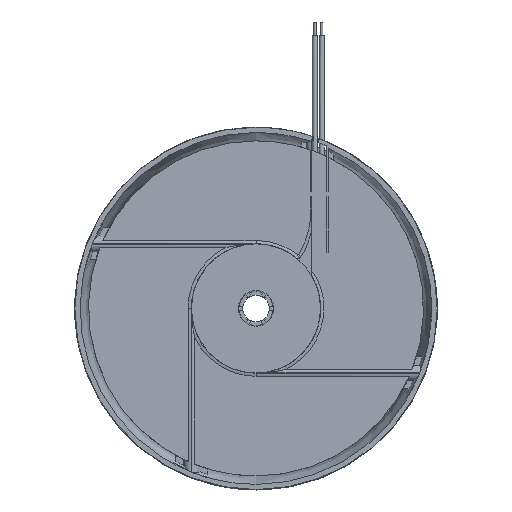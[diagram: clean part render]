
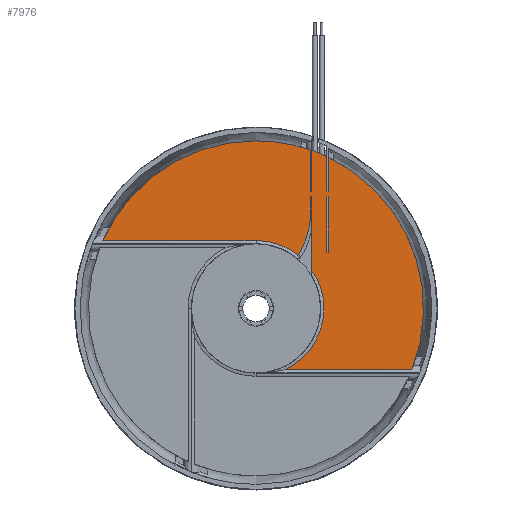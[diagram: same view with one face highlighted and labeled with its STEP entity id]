
A CAD part, top view. The second image highlights one B-rep face of the part: STEP entity #7976.
In plain terms, the highlighted planar face has unit normal (0, 0, 1).
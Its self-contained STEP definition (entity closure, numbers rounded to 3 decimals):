
#118=DIRECTION('',(0.,1.,0.));
#119=VECTOR('',#118,15.471);
#120=CARTESIAN_POINT('',(20.724,44.,-0.5));
#121=LINE('',#120,#119);
#134=DIRECTION('',(0.,1.,0.));
#135=VECTOR('',#134,27.65);
#136=CARTESIAN_POINT('',(20.724,14.35,-0.5));
#137=LINE('',#136,#135);
#688=DIRECTION('',(-1.,0.,0.));
#689=VECTOR('',#688,0.7);
#690=CARTESIAN_POINT('',(27.217,44.,-0.5));
#691=LINE('',#690,#689);
#700=CARTESIAN_POINT('',(0.,0.,-0.5));
#701=DIRECTION('',(0.,0.,-1.));
#702=DIRECTION('',(-0.914,0.405,0.));
#703=AXIS2_PLACEMENT_3D('',#700,#701,#702);
#705=CARTESIAN_POINT('',(0.,0.,-0.5));
#706=DIRECTION('',(0.,0.,-1.));
#707=DIRECTION('',(0.,1.,0.));
#708=AXIS2_PLACEMENT_3D('',#705,#706,#707);
#710=CARTESIAN_POINT('',(0.,0.,-0.5));
#711=DIRECTION('',(0.,0.,-1.));
#712=DIRECTION('',(0.329,0.944,0.));
#713=AXIS2_PLACEMENT_3D('',#710,#711,#712);
#715=CARTESIAN_POINT('',(0.,0.,-0.5));
#716=DIRECTION('',(0.,0.,-1.));
#717=DIRECTION('',(0.432,0.902,0.));
#718=AXIS2_PLACEMENT_3D('',#715,#716,#717);
#735=DIRECTION('',(1.,0.,0.));
#736=VECTOR('',#735,0.184);
#737=CARTESIAN_POINT('',(20.539,42.,-0.5));
#738=LINE('',#737,#736);
#748=CARTESIAN_POINT('',(20.539,59.534,-0.5));
#762=DIRECTION('',(0.,-1.,0.));
#763=VECTOR('',#762,15.534);
#764=CARTESIAN_POINT('',(20.539,59.534,-0.5));
#765=LINE('',#764,#763);
#766=DIRECTION('',(0.,-1.,0.));
#767=VECTOR('',#766,5.409);
#768=CARTESIAN_POINT('',(20.539,42.,-0.5));
#769=LINE('',#768,#767);
#809=DIRECTION('',(0.,1.,0.));
#810=VECTOR('',#809,12.793);
#811=CARTESIAN_POINT('',(27.217,44.,-0.5));
#812=LINE('',#811,#810);
#828=DIRECTION('',(0.,1.,0.));
#829=VECTOR('',#828,20.874);
#830=CARTESIAN_POINT('',(27.217,21.126,-0.5));
#831=LINE('',#830,#829);
#1158=CARTESIAN_POINT('',(-57.572,25.528,-0.5));
#1160=DIRECTION('',(-1.,0.,0.));
#1161=VECTOR('',#1160,57.572);
#1162=CARTESIAN_POINT('',(0.,25.528,-0.5));
#1163=LINE('',#1162,#1161);
#1181=CARTESIAN_POINT('',(0.,0.,-0.5));
#1182=DIRECTION('',(0.,0.,1.));
#1183=DIRECTION('',(0.609,0.793,0.));
#1184=AXIS2_PLACEMENT_3D('',#1181,#1182,#1183);
#1198=CARTESIAN_POINT('',(15.551,20.245,
-0.5));
#1199=CARTESIAN_POINT('',(15.595,20.211,
-0.5));
#1200=CARTESIAN_POINT('',(15.68,20.156,
-0.5));
#1201=CARTESIAN_POINT('',(15.818,20.115,
-0.5));
#1202=CARTESIAN_POINT('',(15.951,20.142,
-0.5));
#1203=CARTESIAN_POINT('',(16.063,20.233,
-0.5));
#1204=CARTESIAN_POINT('',(16.12,20.315,
-0.5));
#1205=CARTESIAN_POINT('',(16.148,20.361,
-0.5));
#1207=CARTESIAN_POINT('',(16.148,20.361,
-0.5));
#1208=CARTESIAN_POINT('',(16.35,20.705,
-0.5));
#1209=CARTESIAN_POINT('',(16.88,21.642,
-0.5));
#1210=CARTESIAN_POINT('',(17.659,23.198,
-0.5));
#1211=CARTESIAN_POINT('',(18.43,25.018,
-0.5));
#1212=CARTESIAN_POINT('',(19.063,26.815,
-0.5));
#1213=CARTESIAN_POINT('',(19.565,28.569,
-0.5));
#1214=CARTESIAN_POINT('',(19.948,30.27,
-0.5));
#1215=CARTESIAN_POINT('',(20.226,31.916,
-0.5));
#1216=CARTESIAN_POINT('',(20.411,33.502,
-0.5));
#1217=CARTESIAN_POINT('',(20.516,35.054,
-0.5));
#1218=CARTESIAN_POINT('',(20.54,36.077,
-0.5));
#1219=CARTESIAN_POINT('',(20.539,36.591,
-0.5));
#1220=CARTESIAN_POINT('',(20.539,36.591,-0.5));
#2776=DIRECTION('',(0.,1.,0.));
#2777=VECTOR('',#2776,13.123);
#2778=CARTESIAN_POINT('',(26.517,44.,-0.5));
#2779=LINE('',#2778,#2777);
#2780=DIRECTION('',(0.,1.,0.));
#2781=VECTOR('',#2780,20.874);
#2782=CARTESIAN_POINT('',(26.517,21.126,-0.5));
#2783=LINE('',#2782,#2781);
#2845=DIRECTION('',(1.,0.,0.));
#2846=VECTOR('',#2845,0.7);
#2847=CARTESIAN_POINT('',(26.517,42.,-0.5));
#2848=LINE('',#2847,#2846);
#2869=DIRECTION('',(1.,0.,0.));
#2870=VECTOR('',#2869,0.7);
#2871=CARTESIAN_POINT('',(26.517,21.126,-0.5));
#2872=LINE('',#2871,#2870);
#6206=CARTESIAN_POINT('',(58.599,-23.072,-0.5));
#6232=DIRECTION('',(-1.,0.,0.));
#6233=VECTOR('',#6232,47.674);
#6234=CARTESIAN_POINT('',(58.599,-23.072,-0.5));
#6235=LINE('',#6234,#6233);
#6236=CARTESIAN_POINT('',(0.,0.,-0.5));
#6237=DIRECTION('',(0.,0.,1.));
#6238=DIRECTION('',(0.428,-0.904,0.));
#6239=AXIS2_PLACEMENT_3D('',#6236,#6237,#6238);
#6248=DIRECTION('',(-0.596,0.803,0.));
#6249=VECTOR('',#6248,3.295);
#6250=CARTESIAN_POINT('',(22.687,11.704,-0.5));
#6251=LINE('',#6250,#6249);
#6252=DIRECTION('',(-1.,0.,0.));
#6253=VECTOR('',#6252,0.184);
#6254=CARTESIAN_POINT('',(20.724,44.,-0.5));
#6255=LINE('',#6254,#6253);
#7186=CARTESIAN_POINT('',(20.724,59.471,-0.5));
#7188=VERTEX_POINT('',#7186);
#7190=CARTESIAN_POINT('',(20.724,14.35,-0.5));
#7191=CARTESIAN_POINT('',(20.724,42.,-0.5));
#7192=VERTEX_POINT('',#7190);
#7193=VERTEX_POINT('',#7191);
#7194=CARTESIAN_POINT('',(20.724,44.,-0.5));
#7195=VERTEX_POINT('',#7194);
#7196=CARTESIAN_POINT('',(20.539,42.,-0.5));
#7197=VERTEX_POINT('',#7196);
#7198=VERTEX_POINT('',#748);
#7200=CARTESIAN_POINT('',(20.539,44.,-0.5));
#7201=VERTEX_POINT('',#7200);
#7202=CARTESIAN_POINT('',(20.539,36.591,-0.5));
#7203=VERTEX_POINT('',#7202);
#7204=CARTESIAN_POINT('',(15.551,20.245,-0.5));
#7205=CARTESIAN_POINT('',(0.,25.528,-0.5));
#7206=VERTEX_POINT('',#7204);
#7207=VERTEX_POINT('',#7205);
#7208=VERTEX_POINT('',#1205);
#7209=CARTESIAN_POINT('',(27.217,44.,-0.5));
#7210=CARTESIAN_POINT('',(26.517,44.,-0.5));
#7211=VERTEX_POINT('',#7209);
#7212=VERTEX_POINT('',#7210);
#7213=CARTESIAN_POINT('',(27.217,56.793,-0.5));
#7215=VERTEX_POINT('',#7213);
#7217=CARTESIAN_POINT('',(27.217,21.126,-0.5));
#7218=CARTESIAN_POINT('',(27.217,42.,-0.5));
#7219=VERTEX_POINT('',#7217);
#7220=VERTEX_POINT('',#7218);
#7250=VERTEX_POINT('',#1158);
#7255=CARTESIAN_POINT('',(26.517,57.123,-0.5));
#7257=VERTEX_POINT('',#7255);
#7259=CARTESIAN_POINT('',(26.517,21.126,-0.5));
#7260=CARTESIAN_POINT('',(26.517,42.,-0.5));
#7261=VERTEX_POINT('',#7259);
#7262=VERTEX_POINT('',#7260);
#7295=VERTEX_POINT('',#6206);
#7296=CARTESIAN_POINT('',(10.925,-23.072,-0.5));
#7297=VERTEX_POINT('',#7296);
#7298=CARTESIAN_POINT('',(22.687,11.704,-0.5));
#7299=VERTEX_POINT('',#7298);
#7300=CARTESIAN_POINT('',(0.,62.978,-0.5));
#7301=VERTEX_POINT('',#7300);
#7924=CARTESIAN_POINT('',(0.,0.,-0.5));
#7925=DIRECTION('',(0.,0.,1.));
#7926=DIRECTION('',(0.,-1.,0.));
#7927=AXIS2_PLACEMENT_3D('',#7924,#7925,#7926);
#7928=PLANE('',#7927);
#7929=ORIENTED_EDGE('',*,*,#7339,.T.);
#7931=ORIENTED_EDGE('',*,*,#7930,.F.);
#7933=ORIENTED_EDGE('',*,*,#7932,.T.);
#7935=ORIENTED_EDGE('',*,*,#7934,.F.);
#7937=ORIENTED_EDGE('',*,*,#7936,.F.);
#7939=ORIENTED_EDGE('',*,*,#7938,.T.);
#7941=ORIENTED_EDGE('',*,*,#7940,.T.);
#7942=ORIENTED_EDGE('',*,*,#7414,.T.);
#7944=ORIENTED_EDGE('',*,*,#7943,.T.);
#7946=ORIENTED_EDGE('',*,*,#7945,.T.);
#7948=ORIENTED_EDGE('',*,*,#7947,.F.);
#7949=ORIENTED_EDGE('',*,*,#7311,.T.);
#7950=ORIENTED_EDGE('',*,*,#7366,.T.);
#7952=ORIENTED_EDGE('',*,*,#7951,.F.);
#7953=ORIENTED_EDGE('',*,*,#7914,.F.);
#7955=ORIENTED_EDGE('',*,*,#7954,.T.);
#7957=ORIENTED_EDGE('',*,*,#7956,.T.);
#7959=ORIENTED_EDGE('',*,*,#7958,.T.);
#7961=ORIENTED_EDGE('',*,*,#7960,.T.);
#7963=ORIENTED_EDGE('',*,*,#7962,.T.);
#7964=EDGE_LOOP('',(#7929,#7931,#7933,#7935,#7937,#7939,#7941,#7942,#7944,#7946,
#7948,#7949,#7950,#7952,#7953,#7955,#7957,#7959,#7961,#7963));
#7965=FACE_OUTER_BOUND('',#7964,.F.);
#7967=ORIENTED_EDGE('',*,*,#7966,.T.);
#7969=ORIENTED_EDGE('',*,*,#7968,.F.);
#7971=ORIENTED_EDGE('',*,*,#7970,.F.);
#7973=ORIENTED_EDGE('',*,*,#7972,.T.);
#7974=EDGE_LOOP('',(#7967,#7969,#7971,#7973));
#7975=FACE_BOUND('',#7974,.F.);
#7976=ADVANCED_FACE('',(#7965,#7975),#7928,.T.);
#704=CIRCLE('',#703,62.978);
#709=CIRCLE('',#708,62.978);
#714=CIRCLE('',#713,62.978);
#719=CIRCLE('',#718,62.978);
#1185=CIRCLE('',#1184,25.528);
#1206=B_SPLINE_CURVE_WITH_KNOTS('',3,(#1198,#1199,#1200,#1201,#1202,#1203,#1204,
#1205),.UNSPECIFIED.,.F.,.F.,(4,1,1,1,1,4),(0.,0.2,0.4,0.6,0.8,1.),
.UNSPECIFIED.);
#1221=B_SPLINE_CURVE_WITH_KNOTS('',3,(#1207,#1208,#1209,#1210,#1211,#1212,#1213,
#1214,#1215,#1216,#1217,#1218,#1219,#1220),.UNSPECIFIED.,.F.,.F.,(4,1,1,1,1,1,1,
1,1,1,1,4),(0.,0.07,0.19,0.306,
0.419,0.526,0.628,0.726,
0.82,0.909,1.,1.),.UNSPECIFIED.);
#6240=CIRCLE('',#6239,25.528);
#7311=EDGE_CURVE('',#7195,#7188,#121,.T.);
#7339=EDGE_CURVE('',#7192,#7193,#137,.T.);
#7366=EDGE_CURVE('',#7188,#7257,#714,.T.);
#7414=EDGE_CURVE('',#7250,#7301,#704,.T.);
#7914=EDGE_CURVE('',#7211,#7212,#691,.T.);
#7930=EDGE_CURVE('',#7197,#7193,#738,.T.);
#7932=EDGE_CURVE('',#7197,#7203,#769,.T.);
#7934=EDGE_CURVE('',#7208,#7203,#1221,.T.);
#7936=EDGE_CURVE('',#7206,#7208,#1206,.T.);
#7938=EDGE_CURVE('',#7206,#7207,#1185,.T.);
#7940=EDGE_CURVE('',#7207,#7250,#1163,.T.);
#7943=EDGE_CURVE('',#7301,#7198,#709,.T.);
#7945=EDGE_CURVE('',#7198,#7201,#765,.T.);
#7947=EDGE_CURVE('',#7195,#7201,#6255,.T.);
#7951=EDGE_CURVE('',#7212,#7257,#2779,.T.);
#7954=EDGE_CURVE('',#7211,#7215,#812,.T.);
#7956=EDGE_CURVE('',#7215,#7295,#719,.T.);
#7958=EDGE_CURVE('',#7295,#7297,#6235,.T.);
#7960=EDGE_CURVE('',#7297,#7299,#6240,.T.);
#7962=EDGE_CURVE('',#7299,#7192,#6251,.T.);
#7966=EDGE_CURVE('',#7219,#7220,#831,.T.);
#7968=EDGE_CURVE('',#7262,#7220,#2848,.T.);
#7970=EDGE_CURVE('',#7261,#7262,#2783,.T.);
#7972=EDGE_CURVE('',#7261,#7219,#2872,.T.);
